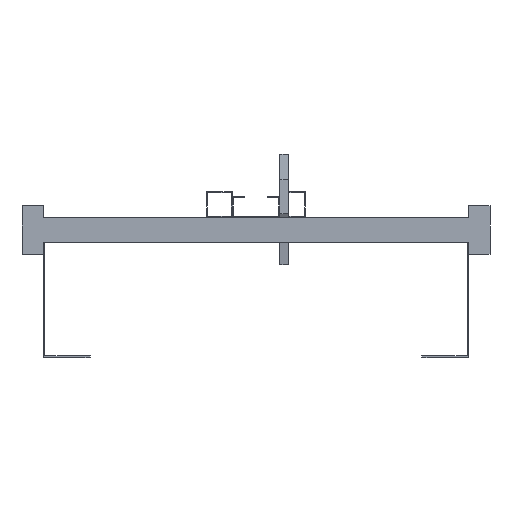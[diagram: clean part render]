
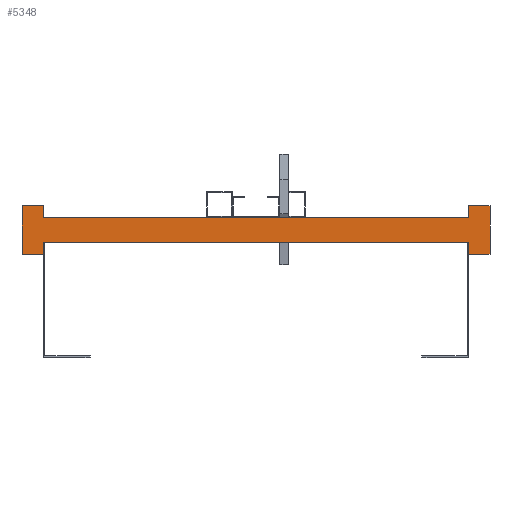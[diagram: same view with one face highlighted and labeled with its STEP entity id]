
A CAD part, front view. The second image highlights one B-rep face of the part: STEP entity #5348.
In plain terms, the highlighted planar face has unit normal (0, -1, 0).
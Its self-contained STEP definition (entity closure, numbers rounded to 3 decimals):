
#1929=DIRECTION('',(0.,0.,1.));
#1930=VECTOR('',#1929,13.5);
#1931=CARTESIAN_POINT('',(250.,0.,-28.5));
#1932=LINE('',#1931,#1930);
#1933=DIRECTION('',(0.,0.,-1.));
#1934=VECTOR('',#1933,13.5);
#1935=CARTESIAN_POINT('',(-250.,0.,-15.));
#1936=LINE('',#1935,#1934);
#1937=DIRECTION('',(-1.,0.,0.));
#1938=VECTOR('',#1937,25.);
#1939=CARTESIAN_POINT('',(-250.,0.,-28.5));
#1940=LINE('',#1939,#1938);
#1941=DIRECTION('',(0.,0.,1.));
#1942=VECTOR('',#1941,57.);
#1943=CARTESIAN_POINT('',(-275.,0.,-28.5));
#1944=LINE('',#1943,#1942);
#1945=DIRECTION('',(1.,0.,0.));
#1946=VECTOR('',#1945,25.);
#1947=CARTESIAN_POINT('',(-275.,0.,28.5));
#1948=LINE('',#1947,#1946);
#1949=DIRECTION('',(0.,0.,-1.));
#1950=VECTOR('',#1949,13.5);
#1951=CARTESIAN_POINT('',(-250.,0.,28.5));
#1952=LINE('',#1951,#1950);
#1953=DIRECTION('',(0.,0.,1.));
#1954=VECTOR('',#1953,13.5);
#1955=CARTESIAN_POINT('',(250.,0.,15.));
#1956=LINE('',#1955,#1954);
#1957=DIRECTION('',(1.,0.,0.));
#1958=VECTOR('',#1957,25.);
#1959=CARTESIAN_POINT('',(250.,0.,28.5));
#1960=LINE('',#1959,#1958);
#1961=DIRECTION('',(0.,0.,-1.));
#1962=VECTOR('',#1961,57.);
#1963=CARTESIAN_POINT('',(275.,0.,28.5));
#1964=LINE('',#1963,#1962);
#1965=DIRECTION('',(-1.,0.,0.));
#1966=VECTOR('',#1965,25.);
#1967=CARTESIAN_POINT('',(275.,0.,-28.5));
#1968=LINE('',#1967,#1966);
#1969=DIRECTION('',(1.,0.,0.));
#1970=VECTOR('',#1969,500.);
#1971=CARTESIAN_POINT('',(-250.,0.,-15.));
#1972=LINE('',#1971,#1970);
#1981=DIRECTION('',(1.,0.,0.));
#1982=VECTOR('',#1981,500.);
#1983=CARTESIAN_POINT('',(-250.,0.,15.));
#1984=LINE('',#1983,#1982);
#2097=CARTESIAN_POINT('',(-275.,0.,28.5));
#2098=CARTESIAN_POINT('',(-250.,0.,28.5));
#2099=VERTEX_POINT('',#2097);
#2100=VERTEX_POINT('',#2098);
#2101=CARTESIAN_POINT('',(-250.,0.,-28.5));
#2102=CARTESIAN_POINT('',(-275.,0.,-28.5));
#2103=VERTEX_POINT('',#2101);
#2104=VERTEX_POINT('',#2102);
#2105=CARTESIAN_POINT('',(275.,0.,28.5));
#2106=CARTESIAN_POINT('',(275.,0.,-28.5));
#2107=VERTEX_POINT('',#2105);
#2108=VERTEX_POINT('',#2106);
#2109=CARTESIAN_POINT('',(250.,0.,-28.5));
#2110=VERTEX_POINT('',#2109);
#2111=CARTESIAN_POINT('',(250.,0.,28.5));
#2112=VERTEX_POINT('',#2111);
#2129=CARTESIAN_POINT('',(-250.,0.,-15.));
#2131=VERTEX_POINT('',#2129);
#2133=CARTESIAN_POINT('',(-250.,0.,15.));
#2135=VERTEX_POINT('',#2133);
#2137=CARTESIAN_POINT('',(250.,0.,-15.));
#2139=VERTEX_POINT('',#2137);
#2141=CARTESIAN_POINT('',(250.,0.,15.));
#2143=VERTEX_POINT('',#2141);
#5323=CARTESIAN_POINT('',(0.,0.,0.));
#5324=DIRECTION('',(0.,1.,0.));
#5325=DIRECTION('',(1.,0.,0.));
#5326=AXIS2_PLACEMENT_3D('',#5323,#5324,#5325);
#5327=PLANE('',#5326);
#5328=ORIENTED_EDGE('',*,*,#3198,.T.);
#5330=ORIENTED_EDGE('',*,*,#5329,.F.);
#5331=ORIENTED_EDGE('',*,*,#2870,.T.);
#5332=ORIENTED_EDGE('',*,*,#4491,.T.);
#5334=ORIENTED_EDGE('',*,*,#5333,.T.);
#5336=ORIENTED_EDGE('',*,*,#5335,.T.);
#5337=ORIENTED_EDGE('',*,*,#2878,.T.);
#5339=ORIENTED_EDGE('',*,*,#5338,.T.);
#5340=ORIENTED_EDGE('',*,*,#3190,.T.);
#5342=ORIENTED_EDGE('',*,*,#5341,.T.);
#5344=ORIENTED_EDGE('',*,*,#5343,.T.);
#5345=ORIENTED_EDGE('',*,*,#4650,.T.);
#5346=EDGE_LOOP('',(#5328,#5330,#5331,#5332,#5334,#5336,#5337,#5339,#5340,#5342,
#5344,#5345));
#5347=FACE_OUTER_BOUND('',#5346,.F.);
#2870=EDGE_CURVE('',#2131,#2103,#1936,.T.);
#2878=EDGE_CURVE('',#2100,#2135,#1952,.T.);
#3190=EDGE_CURVE('',#2143,#2112,#1956,.T.);
#3198=EDGE_CURVE('',#2110,#2139,#1932,.T.);
#4491=EDGE_CURVE('',#2103,#2104,#1940,.T.);
#4650=EDGE_CURVE('',#2108,#2110,#1968,.T.);
#5329=EDGE_CURVE('',#2131,#2139,#1972,.T.);
#5333=EDGE_CURVE('',#2104,#2099,#1944,.T.);
#5335=EDGE_CURVE('',#2099,#2100,#1948,.T.);
#5338=EDGE_CURVE('',#2135,#2143,#1984,.T.);
#5341=EDGE_CURVE('',#2112,#2107,#1960,.T.);
#5343=EDGE_CURVE('',#2107,#2108,#1964,.T.);
#5348=ADVANCED_FACE('',(#5347),#5327,.F.);
